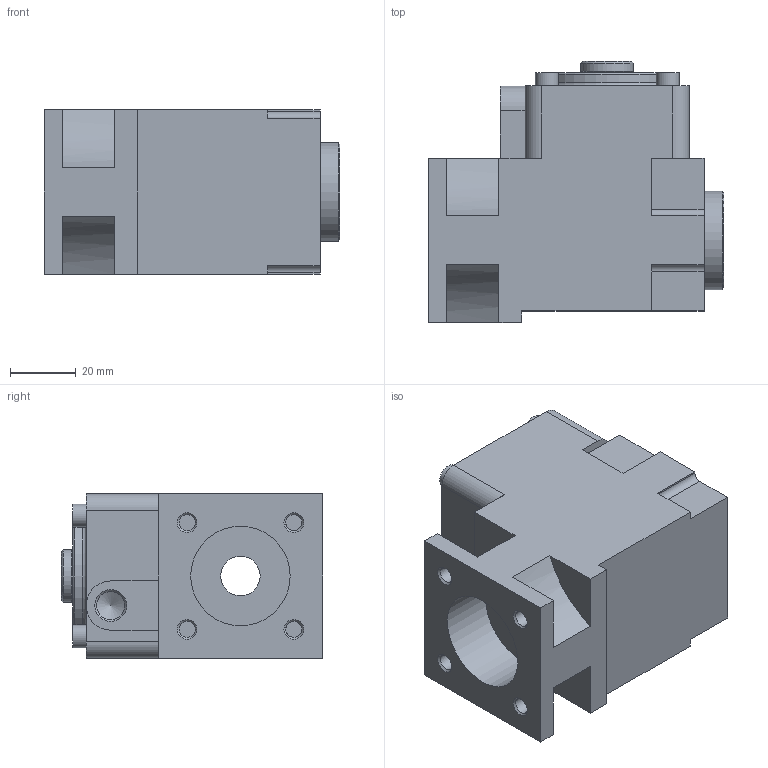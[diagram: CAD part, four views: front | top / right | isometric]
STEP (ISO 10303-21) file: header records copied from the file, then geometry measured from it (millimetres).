
FILE_DESCRIPTION( ( 'STEP AP214' ), ' ' );
FILE_NAME( 'p:/temp/worker_5/4864_3324/app_66_02016022515312349441234192d056f_000000_00_00_000000/format_1/L1-N03212.stp', '2016-02-25T14:31:34', ( '' ), ( '' ), ' ', 'PARTsolutions', ' ' );
FILE_SCHEMA( ( 'AUTOMOTIVE_DESIGN { 1 0 10303 214 1 1 1 1 }' ) );
Length unit declared in the file: millimetre
Products named in the file (1): _L1-N03212
Bounding box: 90 x 79.5 x 50 mm (x, y, z)
Volume: 229807.9 mm3; surface area: 34093.3 mm2
Topology: 1 solids, 1 shells, 148 faces, 368 edges, 235 vertices
Faces by surface type: plane 89, cylinder 35, cone 22, torus 2
Full cylindrical faces by diameter (mm): 1.5 x1, 2.5 x2, 4.917 x8, 7 x4, 8.566 x1, 12 x1, 16 x1, 16.8 x1, 30 x1, 30.3 x1, 40 x1
Entity records: 5261 total; most frequent: DIRECTION 711, CARTESIAN_POINT 685, ORIENTED_EDGE 618, EDGE_CURVE 309, AXIS2_PLACEMENT_3D 253, VERTEX_POINT 227, EDGE_LOOP 217, LINE 205
